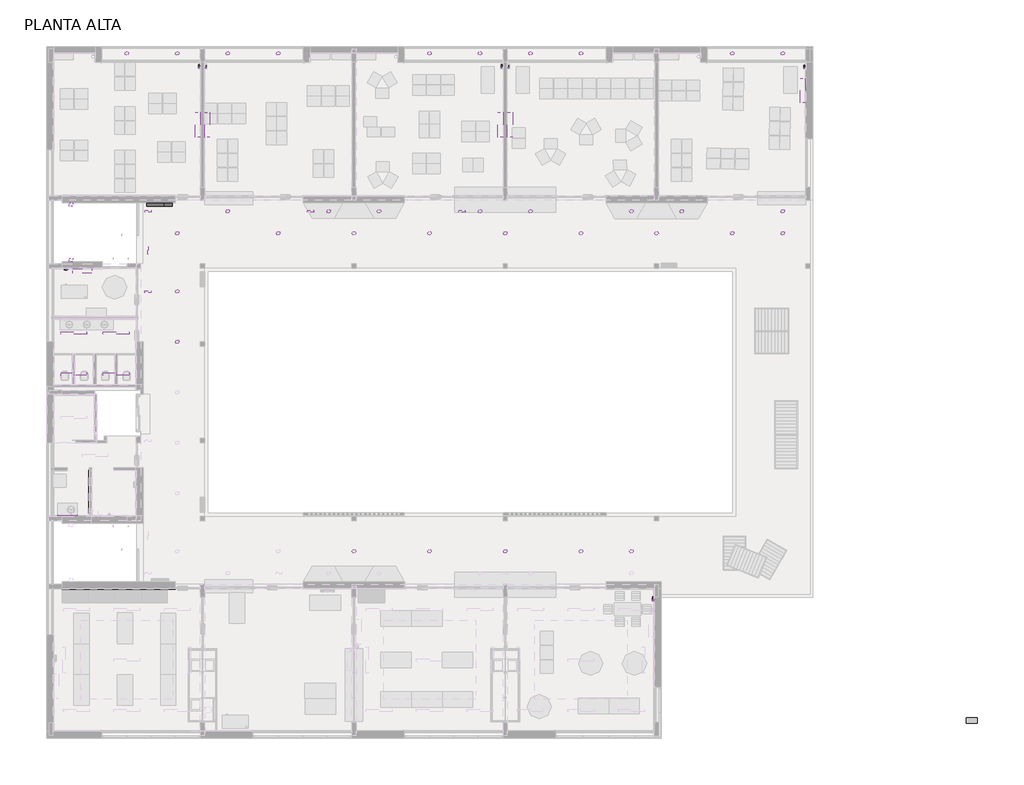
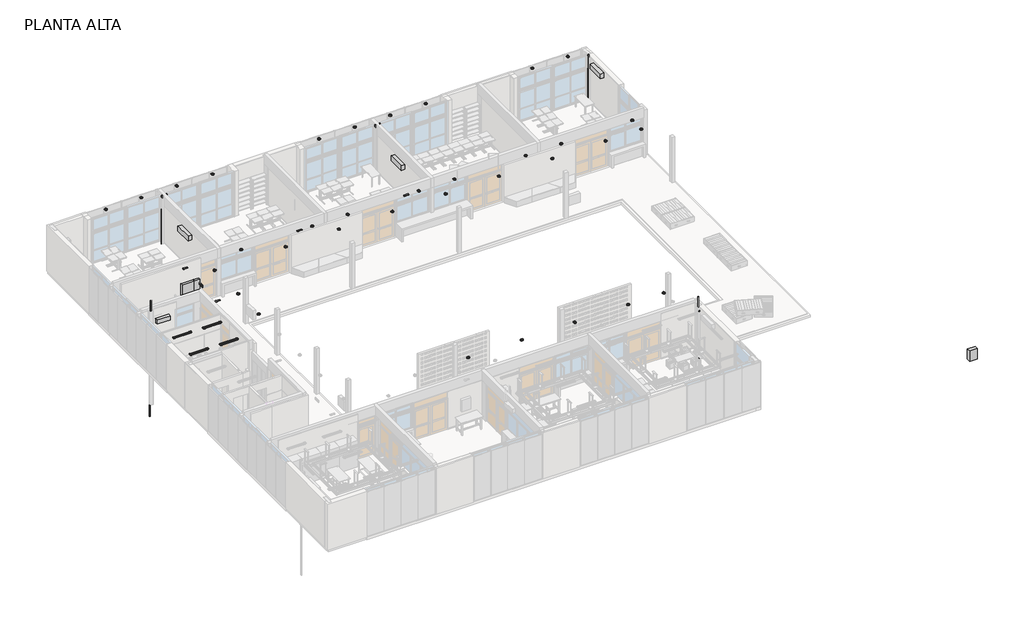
# One storey, part 13 of 14: 45 light fixtures, 20 pipe segments, 18 proxies, 2 pipe fittings.
"""IFC4 building model written with IfcOpenShell, lengths in millimetres."""

from ifc_helpers import new_model, si_unit, point, frame, frame_2d, origin, place, context, project, spatial, polyline, circle_curve, trimmed, segment, composite_curve, outline, extrude, transform, mapped, element, save
from components import aa_unidad_interior_12_18_24_v2_12000btu_578df6c9, aa_unidad_interior_12_18_24_v2_24000btu_6bd6a99b, pca2_35x80x15_251885e6, td_50x70x25_1e6689ec, tpa2_80x80x15_b5537dd2, l150_l150_8baf4198, l151_l151_e0f7dd01, l207_l207_1a914073, l207_l207_df287294, l251_l251_78c3c87a, l251_l251_36c0e2c3, l508_muro_l508_muro_c32f3ad5, m_codo_pvc_serie_40_57727813

model = new_model("IFC4")

# Units and contexts
model_context = context("Model", 3, world=origin())
ifc_project = project(units=[si_unit("LENGTHUNIT", "METRE", prefix="MILLI")], contexts=[model_context])

# Site, building, storey
site = spatial("IfcSite", under=ifc_project)
building = spatial("IfcBuilding", under=site)
storey = spatial("IfcBuildingStorey", under=building, Name="PLANTA ALTA", Elevation=3310.0)

# Proxies
placement = place(None, origin())
element("IfcBuildingElementProxy", 1, Name="23-BAR-ZÓCALO DE BALDOSA H 70mm", ObjectType="23-BAR-ZÓCALO DE BALDOSA H 70mm", at=placement, inside=storey, context=model_context, shape_type="SweptSolid", body=[
    extrude(outline(polyline([(3403.7173694, 535.2304035), (3403.7173694, 545.2304035), (10088.7173694, 545.2304035), (10088.7173694, 535.2304035), (3403.7173694, 535.2304035)])), frame((0.0, 0.0, 3310.0), z_axis=(0.0, 0.0, 1.0), x_axis=(1.0, 0.0, 0.0)), (0.0, 0.0, 1.0), 70.0),
    extrude(outline(polyline([(16988.7173694, 545.2304035), (16988.7173694, 535.2304035), (10720.0173694, 535.2304035), (10720.0173694, 545.2304035), (16988.7173694, 545.2304035)])), frame((0.0, 0.0, 3310.0), z_axis=(0.0, 0.0, 1.0), x_axis=(1.0, 0.0, 0.0)), (0.0, 0.0, 1.0), 70.0),
    extrude(outline(polyline([(23888.7173693, 545.2304035), (23888.7173693, 535.2304035), (17188.7173694, 535.2304035), (17188.7173694, 545.2304035), (23888.7173693, 545.2304035)])), frame((0.0, 0.0, 3310.0), z_axis=(0.0, 0.0, 1.0), x_axis=(1.0, 0.0, 0.0)), (0.0, 0.0, 1.0), 70.0),
    extrude(outline(polyline([(26288.7173693, 545.2304035), (26288.7173693, 535.2304035), (24088.7173694, 535.2304035), (24088.7173694, 545.2304035), (26288.7173693, 545.2304035)])), frame((0.0, 0.0, 3310.0), z_axis=(0.0, 0.0, 1.0), x_axis=(1.0, 0.0, 0.0)), (0.0, 0.0, 1.0), 70.0),
])
element("IfcBuildingElementProxy", 2, Name="23-BAR-ZÓCALO DE BALDOSA H 70mm", ObjectType="23-BAR-ZÓCALO DE BALDOSA H 70mm", at=placement, inside=storey, context=model_context, shape_type="SweptSolid", body=[
    extrude(outline(polyline([(9658.3173694, 4270.2304035), (9658.3173694, 4280.2304035), (10720.0173694, 4280.2304035), (10720.0173694, 4270.2304035), (9658.3173694, 4270.2304035)])), frame((0.0, 0.0, 3310.0), z_axis=(0.0, 0.0, 1.0), x_axis=(1.0, 0.0, 0.0)), (0.0, 0.0, 1.0), 70.0),
])
element("IfcBuildingElementProxy", 3, Name="23-BAR-ZÓCALO DE BALDOSA H 70mm", ObjectType="23-BAR-ZÓCALO DE BALDOSA H 70mm", at=placement, inside=storey, context=model_context, shape_type="SweptSolid", body=[
    extrude(outline(polyline([(9647.4173694, 960.2304035), (9647.4173694, 970.2304035), (10151.2173694, 970.2304035), (10151.2173694, 960.2304035), (9647.4173694, 960.2304035)])), frame((0.0, 0.0, 3310.0), z_axis=(0.0, 0.0, 1.0), x_axis=(1.0, 0.0, 0.0)), (0.0, 0.0, 1.0), 70.0),
])
element("IfcBuildingElementProxy", 4, Name="23-BAR-ZÓCALO DE BALDOSA H 70mm", ObjectType="23-BAR-ZÓCALO DE BALDOSA H 70mm", at=placement, inside=storey, context=model_context, shape_type="SweptSolid", body=[
    extrude(outline(polyline([(3788.7173693, 6995.2304035), (3788.7173693, 7005.2304035), (8938.7173694, 7005.2304035), (8938.7173694, 6995.2304035), (3788.7173693, 6995.2304035)])), frame((0.0, 0.0, 3310.0), z_axis=(0.0, 0.0, 1.0), x_axis=(1.0, 0.0, 0.0)), (0.0, 0.0, 1.0), 70.0),
])
element("IfcBuildingElementProxy", 5, Name="23-BAR-ZÓCALO DE BALDOSA H 70mm", ObjectType="23-BAR-ZÓCALO DE BALDOSA H 70mm", at=placement, inside=storey, context=model_context, shape_type="SweptSolid", body=[
    extrude(outline(polyline([(3403.7173693, 4870.2304035), (3413.7173693, 4870.2304035), (3413.7173693, 535.2304035), (3403.7173693, 535.2304035), (3403.7173693, 4870.2304035)])), frame((0.0, 0.0, 3310.0), z_axis=(0.0, 0.0, 1.0), x_axis=(1.0, 0.0, 0.0)), (0.0, 0.0, 1.0), 70.0),
])
element("IfcBuildingElementProxy", 6, Name="23-BAR-ZÓCALO DE BALDOSA H 70mm", ObjectType="23-BAR-ZÓCALO DE BALDOSA H 70mm", at=placement, inside=storey, context=model_context, shape_type="SweptSolid", body=[
    extrude(outline(polyline([(5018.7173694, 10335.2304035), (5008.7173694, 10345.2304035), (5008.7173694, 12410.2304035), (5018.7173694, 12410.2304035), (5018.7173694, 10335.2304035)])), frame((0.0, 0.0, 3310.0), z_axis=(0.0, 0.0, 1.0), x_axis=(1.0, 0.0, 0.0)), (0.0, 0.0, 1.0), 70.0),
    extrude(outline(polyline([(5008.7173694, 10345.2304035), (5018.7173694, 10335.2304035), (4437.7575549, 10335.2304035), (4437.7575549, 10345.2304035), (5008.7173694, 10345.2304035)])), frame((0.0, 0.0, 3310.0), z_axis=(0.0, 0.0, 1.0), x_axis=(1.0, 0.0, 0.0)), (0.0, 0.0, 1.0), 70.0),
    extrude(outline(polyline([(3388.7173694, 10335.2304035), (3388.7173694, 10345.2304035), (3641.7575549, 10345.2304035), (3641.7575549, 10335.2304035), (3388.7173694, 10335.2304035)])), frame((0.0, 0.0, 3310.0), z_axis=(0.0, 0.0, 1.0), x_axis=(1.0, 0.0, 0.0)), (0.0, 0.0, 1.0), 70.0),
])
element("IfcBuildingElementProxy", 7, Name="23-BAR-BUÑA PLANCHUELA 20x3.3", ObjectType="23-BAR-BUÑA PLANCHUELA 20x3.3", at=placement, inside=storey, context=model_context, shape_type="SweptSolid", body=[
    extrude(outline(polyline([(4489.7575549, 10355.3304035), (4489.7575549, 10335.3304035), (4486.4575549, 10335.3304035), (4486.4575549, 10355.3304035), (4489.7575549, 10355.3304035)])), frame((0.0, 0.0, 4210.0), z_axis=(0.0, 0.0, 1.0), x_axis=(1.0, 0.0, 0.0)), (0.0, 0.0, 1.0), 600.0),
])
element("IfcBuildingElementProxy", 8, Name="23-BAR-BUÑA PLANCHUELA 20x3.3", ObjectType="23-BAR-BUÑA PLANCHUELA 20x3.3", at=placement, inside=storey, context=model_context, shape_type="SweptSolid", body=[
    extrude(outline(polyline([(3593.0575549, 10355.3304035), (3593.0575549, 10335.3304035), (3589.7575549, 10335.3304035), (3589.7575549, 10355.3304035), (3593.0575549, 10355.3304035)])), frame((0.0, 0.0, 4210.0), z_axis=(0.0, 0.0, 1.0), x_axis=(1.0, 0.0, 0.0)), (0.0, 0.0, 1.0), 600.0),
])
element("IfcBuildingElementProxy", 9, Name="23-BAR-BUÑA PLANCHUELA 20x3.3", ObjectType="23-BAR-BUÑA PLANCHUELA 20x3.3", at=placement, inside=storey, context=model_context, shape_type="SweptSolid", body=[
    extrude(outline(polyline([(3589.7575549, 10345.2304035), (3589.7575549, 10365.2304035), (4489.7575549, 10365.2304035), (4489.7575549, 10345.2304035), (3589.7575549, 10345.2304035)])), frame((0.0, 0.0, 4810.0), z_axis=(0.0, 0.0, 1.0), x_axis=(1.0, 0.0, 0.0)), (0.0, 0.0, 1.0), 3.3),
])
aa_unidad_interior_12_18_24_v2_12000btu_shape = aa_unidad_interior_12_18_24_v2_12000btu_578df6c9(model_context)
element("IfcBuildingElementProxy", 10, Name="AA Unidad interior 12-18-24 V2 : 12000BTU", ObjectType="AA Unidad interior 12-18-24 V2 : 12000BTU", at=placement, inside=storey, context=model_context, shape_type="MappedRepresentation", body=[
    mapped(aa_unidad_interior_12_18_24_v2_12000btu_shape, transform((4703.7173693, 21605.2304035, 5610.0), x_axis=(1.0, 0.0, 0.0), y_axis=(0.0, 0.0, 1.0), z_axis=(0.0, -1.0, 0.0))),
])
aa_unidad_interior_12_18_24_v2_24000btu_shape = aa_unidad_interior_12_18_24_v2_24000btu_6bd6a99b(model_context)
element("IfcBuildingElementProxy", 11, Name="AA Unidad interior 12-18-24 V2 : 24000BTU", ObjectType="AA Unidad interior 12-18-24 V2 : 24000BTU", at=placement, inside=storey, context=model_context, shape_type="MappedRepresentation", body=[
    mapped(aa_unidad_interior_12_18_24_v2_24000btu_shape, transform((10088.7173694, 28170.2304035, 5610.0), x_axis=(0.0, 1.0, 0.0), y_axis=(0.0, 0.0, -1.0), z_axis=(-1.0, 0.0, 0.0))),
])
element("IfcBuildingElementProxy", 12, Name="AA Unidad interior 12-18-24 V2 : 24000BTU", ObjectType="AA Unidad interior 12-18-24 V2 : 24000BTU", at=placement, inside=storey, context=model_context, shape_type="MappedRepresentation", body=[
    mapped(aa_unidad_interior_12_18_24_v2_24000btu_shape, transform((10288.7173694, 28170.2304035, 5610.0), x_axis=(0.0, 1.0, 0.0), y_axis=(0.0, 0.0, 1.0), z_axis=(1.0, 0.0, 0.0))),
])
element("IfcBuildingElementProxy", 13, Name="AA Unidad interior 12-18-24 V2 : 24000BTU", ObjectType="AA Unidad interior 12-18-24 V2 : 24000BTU", at=placement, inside=storey, context=model_context, shape_type="MappedRepresentation", body=[
    mapped(aa_unidad_interior_12_18_24_v2_24000btu_shape, transform((24088.7173694, 28170.2304035, 5610.0), x_axis=(0.0, 1.0, 0.0), y_axis=(0.0, 0.0, 1.0), z_axis=(1.0, 0.0, 0.0))),
])
element("IfcBuildingElementProxy", 14, Name="AA Unidad interior 12-18-24 V2 : 24000BTU", ObjectType="AA Unidad interior 12-18-24 V2 : 24000BTU", at=placement, inside=storey, context=model_context, shape_type="MappedRepresentation", body=[
    mapped(aa_unidad_interior_12_18_24_v2_24000btu_shape, transform((23888.7173694, 28170.2304035, 5610.0), x_axis=(0.0, 1.0, 0.0), y_axis=(0.0, 0.0, -1.0), z_axis=(-1.0, 0.0, 0.0))),
])
element("IfcBuildingElementProxy", 15, Name="AA Unidad interior 12-18-24 V2 : 24000BTU", ObjectType="AA Unidad interior 12-18-24 V2 : 24000BTU", at=placement, inside=storey, context=model_context, shape_type="MappedRepresentation", body=[
    mapped(aa_unidad_interior_12_18_24_v2_24000btu_shape, transform((37673.7173693, 29730.2304035, 6110.0), x_axis=(0.0, -1.0, 0.0), y_axis=(0.0, 0.0, 1.0), z_axis=(-1.0, 0.0, 0.0))),
])
pca2_35x80x15_shape = pca2_35x80x15_251885e6(model_context)
element("IfcBuildingElementProxy", 16, Name="TABLERO ELECTRICO DE SUPERFICIE : PCA2 35x80x15", ObjectType="TABLERO ELECTRICO DE SUPERFICIE : PCA2 35x80x15", at=placement, inside=storey, context=model_context, shape_type="MappedRepresentation", body=[
    mapped(pca2_35x80x15_shape, transform((8626.7173694, 24610.2304035, 5110.0), x_axis=(-1.0, 0.0, 0.0), y_axis=(0.0, 0.0, -1.0), z_axis=(0.0, -1.0, 0.0))),
])
td_50x70x25_shape = td_50x70x25_1e6689ec(model_context)
element("IfcBuildingElementProxy", 17, Name="TABLERO ELECTRICO DE SUPERFICIE : TD 50x70x25", ObjectType="TABLERO ELECTRICO DE SUPERFICIE : TD 50x70x25", at=placement, inside=storey, context=model_context, shape_type="MappedRepresentation", body=[
    mapped(td_50x70x25_shape, transform((45263.7173693, 889.3970702, 1800.0), x_axis=(-1.0, 0.0, 0.0), y_axis=(0.0, 0.0, 1.0), z_axis=(0.0, 1.0, 0.0))),
])
tpa2_80x80x15_shape = tpa2_80x80x15_b5537dd2(model_context)
element("IfcBuildingElementProxy", 18, Name="TABLERO ELECTRICO DE SUPERFICIE : TPA2 80x80x15", ObjectType="TABLERO ELECTRICO DE SUPERFICIE : TPA2 80x80x15", at=placement, inside=storey, context=model_context, shape_type="MappedRepresentation", body=[
    mapped(tpa2_80x80x15_shape, transform((8051.7173694, 24610.2304035, 5110.0), x_axis=(-1.0, 0.0, 0.0), y_axis=(0.0, 0.0, -1.0), z_axis=(0.0, -1.0, 0.0))),
])

# Light fixtures
l150_l150_shape = l150_l150_8baf4198(model_context)
element("IfcLightFixture", 19, ObjectType="L150 : L150", at=placement, inside=storey, context=model_context, shape_type="MappedRepresentation", body=[
    mapped(l150_l150_shape, transform((7708.7173693, 22437.7304035, 6410.0), x_axis=(0.0, -1.0, 0.0), y_axis=(-1.0, 0.0, 0.0), z_axis=(0.0, 0.0, -1.0))),
])
l151_l151_shape = l151_l151_e0f7dd01(model_context)
element("IfcLightFixture", 20, ObjectType="L151 : L151", at=placement, inside=storey, context=model_context, shape_type="MappedRepresentation", body=[
    mapped(l151_l151_shape, transform((7708.7173693, 20555.2304035, 6410.0), x_axis=(0.0, -1.0, 0.0), y_axis=(-1.0, 0.0, 0.0), z_axis=(0.0, 0.0, -1.0))),
])
element("IfcLightFixture", 21, ObjectType="L151 : L151", at=placement, inside=storey, context=model_context, shape_type="MappedRepresentation", body=[
    mapped(l151_l151_shape, transform((7708.7173693, 24220.2304035, 6410.0), x_axis=(0.0, -1.0, 0.0), y_axis=(-1.0, 0.0, 0.0), z_axis=(0.0, 0.0, -1.0))),
])
element("IfcLightFixture", 22, ObjectType="L151 : L151", at=placement, inside=storey, context=model_context, shape_type="MappedRepresentation", body=[
    mapped(l151_l151_shape, transform((15108.7173693, 24220.2304035, 6410.0), x_axis=(0.0, -1.0, 0.0), y_axis=(-1.0, 0.0, 0.0), z_axis=(0.0, 0.0, -1.0))),
])
element("IfcLightFixture", 23, ObjectType="L151 : L151", at=placement, inside=storey, context=model_context, shape_type="MappedRepresentation", body=[
    mapped(l151_l151_shape, transform((22008.7173693, 24220.2304035, 6410.0), x_axis=(0.0, -1.0, 0.0), y_axis=(-1.0, 0.0, 0.0), z_axis=(0.0, 0.0, -1.0))),
])
l207_l207_shape = l207_l207_1a914073(model_context)
element("IfcLightFixture", 24, ObjectType="L207 : L207", at=placement, inside=storey, context=model_context, shape_type="MappedRepresentation", body=[
    mapped(l207_l207_shape, transform((17088.7173694, 8720.2304035, 3410.0), x_axis=(1.0, 0.0, 0.0), y_axis=(0.0, 1.0, 0.0), z_axis=(0.0, 0.0, 1.0))),
])
element("IfcLightFixture", 25, ObjectType="L207 : L207", at=placement, inside=storey, context=model_context, shape_type="MappedRepresentation", body=[
    mapped(l207_l207_shape, transform((20538.7173694, 8720.2304035, 3410.0), x_axis=(1.0, 0.0, 0.0), y_axis=(0.0, 1.0, 0.0), z_axis=(0.0, 0.0, 1.0))),
])
element("IfcLightFixture", 26, ObjectType="L207 : L207", at=placement, inside=storey, context=model_context, shape_type="MappedRepresentation", body=[
    mapped(l207_l207_shape, transform((23988.7173694, 8720.2304035, 3410.0), x_axis=(1.0, 0.0, 0.0), y_axis=(0.0, 1.0, 0.0), z_axis=(0.0, 0.0, 1.0))),
])
element("IfcLightFixture", 27, ObjectType="L207 : L207", at=placement, inside=storey, context=model_context, shape_type="MappedRepresentation", body=[
    mapped(l207_l207_shape, transform((27438.7173693, 8720.2304035, 3410.0), x_axis=(1.0, 0.0, 0.0), y_axis=(0.0, 1.0, 0.0), z_axis=(0.0, 0.0, 1.0))),
])
element("IfcLightFixture", 28, ObjectType="L207 : L207", at=placement, inside=storey, context=model_context, shape_type="MappedRepresentation", body=[
    mapped(l207_l207_shape, transform((29738.7173693, 8720.2304035, 3410.0), x_axis=(1.0, 0.0, 0.0), y_axis=(0.0, 1.0, 0.0), z_axis=(0.0, 0.0, 1.0))),
])
element("IfcLightFixture", 29, ObjectType="L207 : L207", at=placement, inside=storey, context=model_context, shape_type="MappedRepresentation", body=[
    mapped(l207_l207_shape, transform((9038.7173693, 18270.2304035, 3410.0), x_axis=(1.0, 0.0, 0.0), y_axis=(0.0, 1.0, 0.0), z_axis=(0.0, 0.0, 1.0))),
])
element("IfcLightFixture", 30, ObjectType="L207 : L207", at=placement, inside=storey, context=model_context, shape_type="MappedRepresentation", body=[
    mapped(l207_l207_shape, transform((9038.7173693, 20570.2304035, 3410.0), x_axis=(1.0, 0.0, 0.0), y_axis=(0.0, 1.0, 0.0), z_axis=(0.0, 0.0, 1.0))),
])
element("IfcLightFixture", 31, ObjectType="L207 : L207", at=placement, inside=storey, context=model_context, shape_type="MappedRepresentation", body=[
    mapped(l207_l207_shape, transform((9038.7173693, 23220.2304035, 3410.0), x_axis=(1.0, 0.0, 0.0), y_axis=(0.0, 1.0, 0.0), z_axis=(0.0, 0.0, 1.0))),
])
element("IfcLightFixture", 32, ObjectType="L207 : L207", at=placement, inside=storey, context=model_context, shape_type="MappedRepresentation", body=[
    mapped(l207_l207_shape, transform((13638.7173693, 23220.2304035, 3410.0), x_axis=(1.0, 0.0, 0.0), y_axis=(0.0, 1.0, 0.0), z_axis=(0.0, 0.0, 1.0))),
])
element("IfcLightFixture", 33, ObjectType="L207 : L207", at=placement, inside=storey, context=model_context, shape_type="MappedRepresentation", body=[
    mapped(l207_l207_shape, transform((17088.7173694, 23220.2304035, 3410.0), x_axis=(1.0, 0.0, 0.0), y_axis=(0.0, 1.0, 0.0), z_axis=(0.0, 0.0, 1.0))),
])
element("IfcLightFixture", 34, ObjectType="L207 : L207", at=placement, inside=storey, context=model_context, shape_type="MappedRepresentation", body=[
    mapped(l207_l207_shape, transform((20538.7173694, 23220.2304035, 3410.0), x_axis=(1.0, 0.0, 0.0), y_axis=(0.0, 1.0, 0.0), z_axis=(0.0, 0.0, 1.0))),
])
element("IfcLightFixture", 35, ObjectType="L207 : L207", at=placement, inside=storey, context=model_context, shape_type="MappedRepresentation", body=[
    mapped(l207_l207_shape, transform((23988.7173694, 23220.2304035, 3410.0), x_axis=(1.0, 0.0, 0.0), y_axis=(0.0, 1.0, 0.0), z_axis=(0.0, 0.0, 1.0))),
])
element("IfcLightFixture", 36, ObjectType="L207 : L207", at=placement, inside=storey, context=model_context, shape_type="MappedRepresentation", body=[
    mapped(l207_l207_shape, transform((27438.7173693, 23220.2304035, 3410.0), x_axis=(1.0, 0.0, 0.0), y_axis=(0.0, 1.0, 0.0), z_axis=(0.0, 0.0, 1.0))),
])
element("IfcLightFixture", 37, ObjectType="L207 : L207", at=placement, inside=storey, context=model_context, shape_type="MappedRepresentation", body=[
    mapped(l207_l207_shape, transform((30888.7173693, 23220.2304035, 3410.0), x_axis=(1.0, 0.0, 0.0), y_axis=(0.0, 1.0, 0.0), z_axis=(0.0, 0.0, 1.0))),
])
element("IfcLightFixture", 38, ObjectType="L207 : L207", at=placement, inside=storey, context=model_context, shape_type="MappedRepresentation", body=[
    mapped(l207_l207_shape, transform((34338.7173693, 23220.2304035, 3410.0), x_axis=(1.0, 0.0, 0.0), y_axis=(0.0, 1.0, 0.0), z_axis=(0.0, 0.0, 1.0))),
])
element("IfcLightFixture", 39, ObjectType="L207 : L207", at=placement, inside=storey, context=model_context, shape_type="MappedRepresentation", body=[
    mapped(l207_l207_shape, transform((36638.7173693, 23220.2304035, 3410.0), x_axis=(1.0, 0.0, 0.0), y_axis=(0.0, 1.0, 0.0), z_axis=(0.0, 0.0, 1.0))),
])
element("IfcLightFixture", 40, ObjectType="L207 : L207", at=placement, inside=storey, context=model_context, shape_type="MappedRepresentation", body=[
    mapped(l207_l207_shape, transform((36638.7173693, 24220.2304035, 3410.0), x_axis=(1.0, 0.0, 0.0), y_axis=(0.0, 1.0, 0.0), z_axis=(0.0, 0.0, 1.0))),
])
element("IfcLightFixture", 41, ObjectType="L207 : L207", at=placement, inside=storey, context=model_context, shape_type="MappedRepresentation", body=[
    mapped(l207_l207_shape, transform((32038.7173693, 24220.2304035, 3410.0), x_axis=(1.0, 0.0, 0.0), y_axis=(0.0, 1.0, 0.0), z_axis=(0.0, 0.0, 1.0))),
])
element("IfcLightFixture", 42, ObjectType="L207 : L207", at=placement, inside=storey, context=model_context, shape_type="MappedRepresentation", body=[
    mapped(l207_l207_shape, transform((29738.7173693, 24220.2304035, 3410.0), x_axis=(1.0, 0.0, 0.0), y_axis=(0.0, 1.0, 0.0), z_axis=(0.0, 0.0, 1.0))),
])
element("IfcLightFixture", 43, ObjectType="L207 : L207", at=placement, inside=storey, context=model_context, shape_type="MappedRepresentation", body=[
    mapped(l207_l207_shape, transform((25138.7173693, 24220.2304035, 3410.0), x_axis=(1.0, 0.0, 0.0), y_axis=(0.0, 1.0, 0.0), z_axis=(0.0, 0.0, 1.0))),
])
element("IfcLightFixture", 44, ObjectType="L207 : L207", at=placement, inside=storey, context=model_context, shape_type="MappedRepresentation", body=[
    mapped(l207_l207_shape, transform((22838.7173694, 24220.2304035, 3410.0), x_axis=(1.0, 0.0, 0.0), y_axis=(0.0, 1.0, 0.0), z_axis=(0.0, 0.0, 1.0))),
])
element("IfcLightFixture", 45, ObjectType="L207 : L207", at=placement, inside=storey, context=model_context, shape_type="MappedRepresentation", body=[
    mapped(l207_l207_shape, transform((18238.7173694, 24220.2304035, 3410.0), x_axis=(1.0, 0.0, 0.0), y_axis=(0.0, 1.0, 0.0), z_axis=(0.0, 0.0, 1.0))),
])
element("IfcLightFixture", 46, ObjectType="L207 : L207", at=placement, inside=storey, context=model_context, shape_type="MappedRepresentation", body=[
    mapped(l207_l207_shape, transform((15938.7173693, 24220.2304035, 3410.0), x_axis=(1.0, 0.0, 0.0), y_axis=(0.0, 1.0, 0.0), z_axis=(0.0, 0.0, 1.0))),
])
element("IfcLightFixture", 47, ObjectType="L207 : L207", at=placement, inside=storey, context=model_context, shape_type="MappedRepresentation", body=[
    mapped(l207_l207_shape, transform((11338.7173693, 24220.2304035, 3410.0), x_axis=(1.0, 0.0, 0.0), y_axis=(0.0, 1.0, 0.0), z_axis=(0.0, 0.0, 1.0))),
])
element("IfcLightFixture", 48, ObjectType="L207 : L207", at=placement, inside=storey, context=model_context, shape_type="MappedRepresentation", body=[
    mapped(l207_l207_shape, transform((36638.7173693, 31419.2304035, 3410.0), x_axis=(1.0, 0.0, 0.0), y_axis=(0.0, 1.0, 0.0), z_axis=(0.0, 0.0, 1.0))),
])
element("IfcLightFixture", 49, ObjectType="L207 : L207", at=placement, inside=storey, context=model_context, shape_type="MappedRepresentation", body=[
    mapped(l207_l207_shape, transform((34338.7173693, 31419.2304035, 3410.0), x_axis=(1.0, 0.0, 0.0), y_axis=(0.0, 1.0, 0.0), z_axis=(0.0, 0.0, 1.0))),
])
element("IfcLightFixture", 50, ObjectType="L207 : L207", at=placement, inside=storey, context=model_context, shape_type="MappedRepresentation", body=[
    mapped(l207_l207_shape, transform((27438.7173693, 31419.2304035, 3410.0), x_axis=(1.0, 0.0, 0.0), y_axis=(0.0, 1.0, 0.0), z_axis=(0.0, 0.0, 1.0))),
])
element("IfcLightFixture", 51, ObjectType="L207 : L207", at=placement, inside=storey, context=model_context, shape_type="MappedRepresentation", body=[
    mapped(l207_l207_shape, transform((25138.7173693, 31419.2304035, 3410.0), x_axis=(1.0, 0.0, 0.0), y_axis=(0.0, 1.0, 0.0), z_axis=(0.0, 0.0, 1.0))),
])
element("IfcLightFixture", 52, ObjectType="L207 : L207", at=placement, inside=storey, context=model_context, shape_type="MappedRepresentation", body=[
    mapped(l207_l207_shape, transform((13638.7173694, 31419.2304035, 3410.0), x_axis=(1.0, 0.0, 0.0), y_axis=(0.0, 1.0, 0.0), z_axis=(0.0, 0.0, 1.0))),
])
element("IfcLightFixture", 53, ObjectType="L207 : L207", at=placement, inside=storey, context=model_context, shape_type="MappedRepresentation", body=[
    mapped(l207_l207_shape, transform((11338.7173694, 31419.2304035, 3410.0), x_axis=(1.0, 0.0, 0.0), y_axis=(0.0, 1.0, 0.0), z_axis=(0.0, 0.0, 1.0))),
])
l207_l207_2_shape = l207_l207_df287294(model_context)
element("IfcLightFixture", 54, ObjectType="L207 : L207", at=placement, inside=storey, context=model_context, shape_type="MappedRepresentation", body=[
    mapped(l207_l207_2_shape, transform((20538.7173694, 31419.2304035, 3410.0), x_axis=(-1.0, 0.0, 0.0), y_axis=(0.0, -1.0, 0.0), z_axis=(0.0, 0.0, 1.0))),
])
element("IfcLightFixture", 55, ObjectType="L207 : L207", at=placement, inside=storey, context=model_context, shape_type="MappedRepresentation", body=[
    mapped(l207_l207_2_shape, transform((22838.7173694, 31419.2304035, 3410.0), x_axis=(-1.0, 0.0, 0.0), y_axis=(0.0, -1.0, 0.0), z_axis=(0.0, 0.0, 1.0))),
])
element("IfcLightFixture", 56, ObjectType="L207 : L207", at=placement, inside=storey, context=model_context, shape_type="MappedRepresentation", body=[
    mapped(l207_l207_2_shape, transform((6738.7173694, 31419.2304035, 3410.0), x_axis=(-1.0, 0.0, 0.0), y_axis=(0.0, -1.0, 0.0), z_axis=(0.0, 0.0, 1.0))),
])
element("IfcLightFixture", 57, ObjectType="L207 : L207", at=placement, inside=storey, context=model_context, shape_type="MappedRepresentation", body=[
    mapped(l207_l207_2_shape, transform((9038.7173694, 31419.2304035, 3410.0), x_axis=(-1.0, 0.0, 0.0), y_axis=(0.0, -1.0, 0.0), z_axis=(0.0, 0.0, 1.0))),
])
l251_l251_shape = l251_l251_78c3c87a(model_context)
element("IfcLightFixture", 58, ObjectType="L251 : L251", at=placement, inside=storey, context=model_context, shape_type="MappedRepresentation", body=[
    mapped(l251_l251_shape, transform((4316.2173694, 18670.2304035, 5010.0), x_axis=(1.0, 0.0, 0.0), y_axis=(0.0, 1.0, 0.0), z_axis=(0.0, 0.0, 1.0))),
])
element("IfcLightFixture", 59, ObjectType="L251 : L251", at=placement, inside=storey, context=model_context, shape_type="MappedRepresentation", body=[
    mapped(l251_l251_shape, transform((4316.2173694, 16797.7304035, 5010.0), x_axis=(1.0, 0.0, 0.0), y_axis=(0.0, 1.0, 0.0), z_axis=(0.0, 0.0, 1.0))),
])
l251_l251_2_shape = l251_l251_36c0e2c3(model_context)
element("IfcLightFixture", 60, ObjectType="L251 : L251", at=placement, inside=storey, context=model_context, shape_type="MappedRepresentation", body=[
    mapped(l251_l251_2_shape, transform((6251.2173694, 18670.2304035, 5010.0), x_axis=(-1.0, 0.0, 0.0), y_axis=(0.0, -1.0, 0.0), z_axis=(0.0, 0.0, 1.0))),
])
element("IfcLightFixture", 61, ObjectType="L251 : L251", at=placement, inside=storey, context=model_context, shape_type="MappedRepresentation", body=[
    mapped(l251_l251_2_shape, transform((6251.2173694, 16797.7304035, 5010.0), x_axis=(-1.0, 0.0, 0.0), y_axis=(0.0, -1.0, 0.0), z_axis=(0.0, 0.0, 1.0))),
])
l508_muro_l508_muro_shape = l508_muro_l508_muro_c32f3ad5(model_context)
element("IfcLightFixture", 62, ObjectType="L508 Muro : L508 Muro", at=placement, inside=storey, context=model_context, shape_type="MappedRepresentation", body=[
    mapped(l508_muro_l508_muro_shape, transform((4063.7173693, 21767.7304035, 2880.0), x_axis=(1.0, 0.0, 0.0), y_axis=(0.0, 1.0, 0.0), z_axis=(0.0, 0.0, 1.0))),
])
element("IfcLightFixture", 63, ObjectType="L508 Muro : L508 Muro", at=placement, inside=storey, context=model_context, shape_type="MappedRepresentation", body=[
    mapped(l508_muro_l508_muro_shape, transform((4313.7173693, 24772.7304035, 2880.0), x_axis=(-1.0, 0.0, 0.0), y_axis=(0.0, -1.0, 0.0), z_axis=(0.0, 0.0, 1.0))),
])

# Pipe fittings
m_codo_pvc_serie_40_shape = m_codo_pvc_serie_40_57727813(model_context)
element("IfcPipeFitting", 64, ObjectType="M_Codo - PVC - Serie 40 : Estándar", at=placement, inside=storey, context=model_context, shape_type="MappedRepresentation", body=[
    mapped(m_codo_pvc_serie_40_shape, transform((30731.2173693, 6506.2260239, 6164.231432), x_axis=(0.0, 1.0, 0.0), y_axis=(0.0, 0.0, 1.0), z_axis=(1.0, 0.0, 0.0))),
])
element("IfcPipeFitting", 65, ObjectType="M_Codo - PVC - Serie 40 : Estándar", at=placement, inside=storey, context=model_context, shape_type="MappedRepresentation", body=[
    mapped(m_codo_pvc_serie_40_shape, transform((30731.2173693, 6573.7260239, 2869.0975664), x_axis=(0.0, 1.0, 0.0), y_axis=(0.0, 0.0, 1.0), z_axis=(1.0, 0.0, 0.0))),
])

# Pipe segments
element("IfcPipeSegment", 66, ObjectType="Conductos Electricos", at=placement, inside=storey, context=model_context, shape_type="SweptSolid", body=[
    extrude(outline(composite_curve([segment(trimmed(circle_curve(frame_2d((10031.6565853, 30839.1557622)), 30.1625), [point((10061.8190853, 30839.1557622))], [point((10031.6565853, 30808.9932622))], False, "CARTESIAN"), True, "CONTINUOUS"), segment(trimmed(circle_curve(frame_2d((10031.6565853, 30839.1557622)), 30.1625), [point((10031.6565853, 30808.9932622))], [point((10001.4940853, 30839.1557622))], False, "CARTESIAN"), True, "CONTINUOUS"), segment(trimmed(circle_curve(frame_2d((10031.6565853, 30839.1557622)), 30.1625), [point((10001.4940853, 30839.1557622))], [point((10031.6565853, 30869.3182622))], False, "CARTESIAN"), True, "CONTINUOUS"), segment(trimmed(circle_curve(frame_2d((10031.6565853, 30839.1557622)), 30.1625), [point((10031.6565853, 30869.3182622))], [point((10061.8190853, 30839.1557622))], False, "CARTESIAN"), True, "CONTINUOUS")], self_intersect=False)), frame((0.0, 0.0, 2345.0), z_axis=(0.0, 0.0, 1.0), x_axis=(1.0, 0.0, 0.0)), (0.0, 0.0, 1.0), 4200.0),
])
element("IfcPipeSegment", 67, ObjectType="Conductos Electricos", at=placement, inside=storey, context=model_context, shape_type="SweptSolid", body=[
    extrude(outline(composite_curve([segment(trimmed(circle_curve(frame_2d((10031.6565853, 30895.4057622)), 16.7005), [point((10048.3570853, 30895.4057622))], [point((10031.6565853, 30878.7052622))], False, "CARTESIAN"), True, "CONTINUOUS"), segment(trimmed(circle_curve(frame_2d((10031.6565853, 30895.4057622)), 16.7005), [point((10031.6565853, 30878.7052622))], [point((10014.9560853, 30895.4057622))], False, "CARTESIAN"), True, "CONTINUOUS"), segment(trimmed(circle_curve(frame_2d((10031.6565853, 30895.4057622)), 16.7005), [point((10014.9560853, 30895.4057622))], [point((10031.6565853, 30912.1062622))], False, "CARTESIAN"), True, "CONTINUOUS"), segment(trimmed(circle_curve(frame_2d((10031.6565853, 30895.4057622)), 16.7005), [point((10031.6565853, 30912.1062622))], [point((10048.3570853, 30895.4057622))], False, "CARTESIAN"), True, "CONTINUOUS")], self_intersect=False)), frame((0.0, 0.0, -230.0), z_axis=(0.0, 0.0, 1.0), x_axis=(1.0, 0.0, 0.0)), (0.0, 0.0, 1.0), 5800.0),
])
element("IfcPipeSegment", 68, ObjectType="Conductos Electricos", at=placement, inside=storey, context=model_context, shape_type="SweptSolid", body=[
    extrude(outline(composite_curve([segment(trimmed(circle_curve(frame_2d((10031.6565853, 30764.4231772)), 30.1625), [point((10061.8190853, 30764.4231772))], [point((10031.6565853, 30734.2606772))], False, "CARTESIAN"), True, "CONTINUOUS"), segment(trimmed(circle_curve(frame_2d((10031.6565853, 30764.4231772)), 30.1625), [point((10031.6565853, 30734.2606772))], [point((10001.4940853, 30764.4231772))], False, "CARTESIAN"), True, "CONTINUOUS"), segment(trimmed(circle_curve(frame_2d((10031.6565853, 30764.4231772)), 30.1625), [point((10001.4940853, 30764.4231772))], [point((10031.6565853, 30794.5856772))], False, "CARTESIAN"), True, "CONTINUOUS"), segment(trimmed(circle_curve(frame_2d((10031.6565853, 30764.4231772)), 30.1625), [point((10031.6565853, 30794.5856772))], [point((10061.8190853, 30764.4231772))], False, "CARTESIAN"), True, "CONTINUOUS")], self_intersect=False)), frame((0.0, 0.0, 5710.0), z_axis=(0.0, 0.0, 1.0), x_axis=(1.0, 0.0, 0.0)), (0.0, 0.0, 1.0), 835.0),
])
element("IfcPipeSegment", 69, ObjectType="Conductos Electricos", at=placement, inside=storey, context=model_context, shape_type="SweptSolid", body=[
    extrude(outline(composite_curve([segment(trimmed(circle_curve(frame_2d((10331.6565853, 30834.1557622)), 24.13), [point((10355.7865853, 30834.1557622))], [point((10331.6565853, 30810.0257622))], False, "CARTESIAN"), True, "CONTINUOUS"), segment(trimmed(circle_curve(frame_2d((10331.6565853, 30834.1557622)), 24.13), [point((10331.6565853, 30810.0257622))], [point((10307.5265853, 30834.1557622))], False, "CARTESIAN"), True, "CONTINUOUS"), segment(trimmed(circle_curve(frame_2d((10331.6565853, 30834.1557622)), 24.13), [point((10307.5265853, 30834.1557622))], [point((10331.6565853, 30858.2857622))], False, "CARTESIAN"), True, "CONTINUOUS"), segment(trimmed(circle_curve(frame_2d((10331.6565853, 30834.1557622)), 24.13), [point((10331.6565853, 30858.2857622))], [point((10355.7865853, 30834.1557622))], False, "CARTESIAN"), True, "CONTINUOUS")], self_intersect=False)), frame((0.0, 0.0, 2245.0), z_axis=(0.0, 0.0, 1.0), x_axis=(1.0, 0.0, 0.0)), (0.0, 0.0, 1.0), 4300.0),
])
element("IfcPipeSegment", 70, ObjectType="Conductos Electricos", at=placement, inside=storey, context=model_context, shape_type="SweptSolid", body=[
    extrude(outline(composite_curve([segment(trimmed(circle_curve(frame_2d((10331.6565853, 30764.4231772)), 24.13), [point((10355.7865853, 30764.4231772))], [point((10331.6565853, 30740.2931772))], False, "CARTESIAN"), True, "CONTINUOUS"), segment(trimmed(circle_curve(frame_2d((10331.6565853, 30764.4231772)), 24.13), [point((10331.6565853, 30740.2931772))], [point((10307.5265853, 30764.4231772))], False, "CARTESIAN"), True, "CONTINUOUS"), segment(trimmed(circle_curve(frame_2d((10331.6565853, 30764.4231772)), 24.13), [point((10307.5265853, 30764.4231772))], [point((10331.6565853, 30788.5531772))], False, "CARTESIAN"), True, "CONTINUOUS"), segment(trimmed(circle_curve(frame_2d((10331.6565853, 30764.4231772)), 24.13), [point((10331.6565853, 30788.5531772))], [point((10355.7865853, 30764.4231772))], False, "CARTESIAN"), True, "CONTINUOUS")], self_intersect=False)), frame((0.0, 0.0, 5710.0), z_axis=(0.0, 0.0, 1.0), x_axis=(1.0, 0.0, 0.0)), (0.0, 0.0, 1.0), 835.0),
])
element("IfcPipeSegment", 71, ObjectType="Conductos Electricos", at=placement, inside=storey, context=model_context, shape_type="SweptSolid", body=[
    extrude(outline(composite_curve([segment(trimmed(circle_curve(frame_2d((23831.6565853, 30839.1557622)), 30.1625), [point((23861.8190853, 30839.1557622))], [point((23831.6565853, 30808.9932622))], False, "CARTESIAN"), True, "CONTINUOUS"), segment(trimmed(circle_curve(frame_2d((23831.6565853, 30839.1557622)), 30.1625), [point((23831.6565853, 30808.9932622))], [point((23801.4940853, 30839.1557622))], False, "CARTESIAN"), True, "CONTINUOUS"), segment(trimmed(circle_curve(frame_2d((23831.6565853, 30839.1557622)), 30.1625), [point((23801.4940853, 30839.1557622))], [point((23831.6565853, 30869.3182622))], False, "CARTESIAN"), True, "CONTINUOUS"), segment(trimmed(circle_curve(frame_2d((23831.6565853, 30839.1557622)), 30.1625), [point((23831.6565853, 30869.3182622))], [point((23861.8190853, 30839.1557622))], False, "CARTESIAN"), True, "CONTINUOUS")], self_intersect=False)), frame((0.0, 0.0, 2345.0), z_axis=(0.0, 0.0, 1.0), x_axis=(1.0, 0.0, 0.0)), (0.0, 0.0, 1.0), 4200.0),
])
element("IfcPipeSegment", 72, ObjectType="Conductos Electricos", at=placement, inside=storey, context=model_context, shape_type="SweptSolid", body=[
    extrude(outline(composite_curve([segment(trimmed(circle_curve(frame_2d((23831.6565853, 30895.4057622)), 16.7005), [point((23848.3570853, 30895.4057622))], [point((23831.6565853, 30878.7052622))], False, "CARTESIAN"), True, "CONTINUOUS"), segment(trimmed(circle_curve(frame_2d((23831.6565853, 30895.4057622)), 16.7005), [point((23831.6565853, 30878.7052622))], [point((23814.9560853, 30895.4057622))], False, "CARTESIAN"), True, "CONTINUOUS"), segment(trimmed(circle_curve(frame_2d((23831.6565853, 30895.4057622)), 16.7005), [point((23814.9560853, 30895.4057622))], [point((23831.6565853, 30912.1062622))], False, "CARTESIAN"), True, "CONTINUOUS"), segment(trimmed(circle_curve(frame_2d((23831.6565853, 30895.4057622)), 16.7005), [point((23831.6565853, 30912.1062622))], [point((23848.3570853, 30895.4057622))], False, "CARTESIAN"), True, "CONTINUOUS")], self_intersect=False)), frame((0.0, 0.0, -230.0), z_axis=(0.0, 0.0, 1.0), x_axis=(1.0, 0.0, 0.0)), (0.0, 0.0, 1.0), 5800.0),
])
element("IfcPipeSegment", 73, ObjectType="Conductos Electricos", at=placement, inside=storey, context=model_context, shape_type="SweptSolid", body=[
    extrude(outline(composite_curve([segment(trimmed(circle_curve(frame_2d((23831.6565853, 30764.4231772)), 30.1625), [point((23861.8190853, 30764.4231772))], [point((23831.6565853, 30734.2606772))], False, "CARTESIAN"), True, "CONTINUOUS"), segment(trimmed(circle_curve(frame_2d((23831.6565853, 30764.4231772)), 30.1625), [point((23831.6565853, 30734.2606772))], [point((23801.4940853, 30764.4231772))], False, "CARTESIAN"), True, "CONTINUOUS"), segment(trimmed(circle_curve(frame_2d((23831.6565853, 30764.4231772)), 30.1625), [point((23801.4940853, 30764.4231772))], [point((23831.6565853, 30794.5856772))], False, "CARTESIAN"), True, "CONTINUOUS"), segment(trimmed(circle_curve(frame_2d((23831.6565853, 30764.4231772)), 30.1625), [point((23831.6565853, 30794.5856772))], [point((23861.8190853, 30764.4231772))], False, "CARTESIAN"), True, "CONTINUOUS")], self_intersect=False)), frame((0.0, 0.0, 5710.0), z_axis=(0.0, 0.0, 1.0), x_axis=(1.0, 0.0, 0.0)), (0.0, 0.0, 1.0), 835.0),
])
element("IfcPipeSegment", 74, ObjectType="Conductos Electricos", at=placement, inside=storey, context=model_context, shape_type="SweptSolid", body=[
    extrude(outline(composite_curve([segment(trimmed(circle_curve(frame_2d((24131.6565853, 30834.1557622)), 24.13), [point((24155.7865853, 30834.1557622))], [point((24131.6565853, 30810.0257622))], False, "CARTESIAN"), True, "CONTINUOUS"), segment(trimmed(circle_curve(frame_2d((24131.6565853, 30834.1557622)), 24.13), [point((24131.6565853, 30810.0257622))], [point((24107.5265853, 30834.1557622))], False, "CARTESIAN"), True, "CONTINUOUS"), segment(trimmed(circle_curve(frame_2d((24131.6565853, 30834.1557622)), 24.13), [point((24107.5265853, 30834.1557622))], [point((24131.6565853, 30858.2857622))], False, "CARTESIAN"), True, "CONTINUOUS"), segment(trimmed(circle_curve(frame_2d((24131.6565853, 30834.1557622)), 24.13), [point((24131.6565853, 30858.2857622))], [point((24155.7865853, 30834.1557622))], False, "CARTESIAN"), True, "CONTINUOUS")], self_intersect=False)), frame((0.0, 0.0, 2345.0), z_axis=(0.0, 0.0, 1.0), x_axis=(1.0, 0.0, 0.0)), (0.0, 0.0, 1.0), 4200.0),
])
element("IfcPipeSegment", 75, ObjectType="Conductos Electricos", at=placement, inside=storey, context=model_context, shape_type="SweptSolid", body=[
    extrude(outline(composite_curve([segment(trimmed(circle_curve(frame_2d((24131.6565853, 30764.4231772)), 24.13), [point((24155.7865853, 30764.4231772))], [point((24131.6565853, 30740.2931772))], False, "CARTESIAN"), True, "CONTINUOUS"), segment(trimmed(circle_curve(frame_2d((24131.6565853, 30764.4231772)), 24.13), [point((24131.6565853, 30740.2931772))], [point((24107.5265853, 30764.4231772))], False, "CARTESIAN"), True, "CONTINUOUS"), segment(trimmed(circle_curve(frame_2d((24131.6565853, 30764.4231772)), 24.13), [point((24107.5265853, 30764.4231772))], [point((24131.6565853, 30788.5531772))], False, "CARTESIAN"), True, "CONTINUOUS"), segment(trimmed(circle_curve(frame_2d((24131.6565853, 30764.4231772)), 24.13), [point((24131.6565853, 30788.5531772))], [point((24155.7865853, 30764.4231772))], False, "CARTESIAN"), True, "CONTINUOUS")], self_intersect=False)), frame((0.0, 0.0, 5710.0), z_axis=(0.0, 0.0, 1.0), x_axis=(1.0, 0.0, 0.0)), (0.0, 0.0, 1.0), 835.0),
])
element("IfcPipeSegment", 76, ObjectType="Conductos Electricos", at=placement, inside=storey, context=model_context, shape_type="SweptSolid", body=[
    extrude(outline(composite_curve([segment(trimmed(circle_curve(frame_2d((37618.7951559, 30814.1557622)), 30.1625), [point((37648.9576559, 30814.1557622))], [point((37618.7951559, 30783.9932622))], False, "CARTESIAN"), True, "CONTINUOUS"), segment(trimmed(circle_curve(frame_2d((37618.7951559, 30814.1557622)), 30.1625), [point((37618.7951559, 30783.9932622))], [point((37588.6326559, 30814.1557622))], False, "CARTESIAN"), True, "CONTINUOUS"), segment(trimmed(circle_curve(frame_2d((37618.7951559, 30814.1557622)), 30.1625), [point((37588.6326559, 30814.1557622))], [point((37618.7951559, 30844.3182622))], False, "CARTESIAN"), True, "CONTINUOUS"), segment(trimmed(circle_curve(frame_2d((37618.7951559, 30814.1557622)), 30.1625), [point((37618.7951559, 30844.3182622))], [point((37648.9576559, 30814.1557622))], False, "CARTESIAN"), True, "CONTINUOUS")], self_intersect=False)), frame((0.0, 0.0, 2365.0), z_axis=(0.0, 0.0, 1.0), x_axis=(1.0, 0.0, 0.0)), (0.0, 0.0, 1.0), 4180.0),
])
element("IfcPipeSegment", 77, ObjectType="Conductos Electricos", at=placement, inside=storey, context=model_context, shape_type="SweptSolid", body=[
    extrude(outline(composite_curve([segment(trimmed(circle_curve(frame_2d((37618.7951559, 30744.4231772)), 30.1625), [point((37648.9576559, 30744.4231772))], [point((37618.7951559, 30714.2606772))], False, "CARTESIAN"), True, "CONTINUOUS"), segment(trimmed(circle_curve(frame_2d((37618.7951559, 30744.4231772)), 30.1625), [point((37618.7951559, 30714.2606772))], [point((37588.6326559, 30744.4231772))], False, "CARTESIAN"), True, "CONTINUOUS"), segment(trimmed(circle_curve(frame_2d((37618.7951559, 30744.4231772)), 30.1625), [point((37588.6326559, 30744.4231772))], [point((37618.7951559, 30774.5856772))], False, "CARTESIAN"), True, "CONTINUOUS"), segment(trimmed(circle_curve(frame_2d((37618.7951559, 30744.4231772)), 30.1625), [point((37618.7951559, 30774.5856772))], [point((37648.9576559, 30744.4231772))], False, "CARTESIAN"), True, "CONTINUOUS")], self_intersect=False)), frame((0.0, 0.0, 5710.0), z_axis=(0.0, 0.0, 1.0), x_axis=(1.0, 0.0, 0.0)), (0.0, 0.0, 1.0), 835.0),
])
element("IfcPipeSegment", 78, ObjectType="Conductos Electricos", at=placement, inside=storey, context=model_context, shape_type="SweptSolid", body=[
    extrude(outline(composite_curve([segment(trimmed(circle_curve(frame_2d((37616.6565853, 30870.4057622)), 16.7005), [point((37633.3570853, 30870.4057622))], [point((37616.6565853, 30853.7052622))], False, "CARTESIAN"), True, "CONTINUOUS"), segment(trimmed(circle_curve(frame_2d((37616.6565853, 30870.4057622)), 16.7005), [point((37616.6565853, 30853.7052622))], [point((37599.9560853, 30870.4057622))], False, "CARTESIAN"), True, "CONTINUOUS"), segment(trimmed(circle_curve(frame_2d((37616.6565853, 30870.4057622)), 16.7005), [point((37599.9560853, 30870.4057622))], [point((37616.6565853, 30887.1062622))], False, "CARTESIAN"), True, "CONTINUOUS"), segment(trimmed(circle_curve(frame_2d((37616.6565853, 30870.4057622)), 16.7005), [point((37616.6565853, 30887.1062622))], [point((37633.3570853, 30870.4057622))], False, "CARTESIAN"), True, "CONTINUOUS")], self_intersect=False)), frame((0.0, 0.0, -230.0), z_axis=(0.0, 0.0, 1.0), x_axis=(1.0, 0.0, 0.0)), (0.0, 0.0, 1.0), 5800.0),
])
element("IfcPipeSegment", 79, ObjectType="Conductos Electricos", at=placement, inside=storey, context=model_context, shape_type="SweptSolid", body=[
    extrude(outline(composite_curve([segment(trimmed(circle_curve(frame_2d((30731.2173693, 6506.2260239)), 30.1625), [point((30701.0548693, 6506.2260239))], [point((30731.2173693, 6536.3885239))], False, "CARTESIAN"), True, "CONTINUOUS"), segment(trimmed(circle_curve(frame_2d((30731.2173693, 6506.2260239)), 30.1625), [point((30731.2173693, 6536.3885239))], [point((30761.3798693, 6506.2260239))], False, "CARTESIAN"), True, "CONTINUOUS"), segment(trimmed(circle_curve(frame_2d((30731.2173693, 6506.2260239)), 30.1625), [point((30761.3798693, 6506.2260239))], [point((30731.2173693, 6476.0635239))], False, "CARTESIAN"), True, "CONTINUOUS"), segment(trimmed(circle_curve(frame_2d((30731.2173693, 6506.2260239)), 30.1625), [point((30731.2173693, 6476.0635239))], [point((30701.0548693, 6506.2260239))], False, "CARTESIAN"), True, "CONTINUOUS")], self_intersect=False)), frame((0.0, 0.0, 6228.525182), z_axis=(0.0, 0.0, 1.0), x_axis=(1.0, 0.0, 0.0)), (0.0, 0.0, 1.0), 841.474818),
])
element("IfcPipeSegment", 80, ObjectType="Conductos Electricos", at=placement, inside=storey, context=model_context, shape_type="SweptSolid", body=[
    extrude(outline(composite_curve([segment(trimmed(circle_curve(frame_2d((2869.0975664, 30731.2173693)), 30.1625), [point((2869.0975664, 30701.0548693))], [point((2838.9350664, 30731.2173693))], False, "CARTESIAN"), True, "CONTINUOUS"), segment(trimmed(circle_curve(frame_2d((2869.0975664, 30731.2173693)), 30.1625), [point((2838.9350664, 30731.2173693))], [point((2869.0975664, 30761.3798693))], False, "CARTESIAN"), True, "CONTINUOUS"), segment(trimmed(circle_curve(frame_2d((2869.0975664, 30731.2173693)), 30.1625), [point((2869.0975664, 30761.3798693))], [point((2899.2600664, 30731.2173693))], False, "CARTESIAN"), True, "CONTINUOUS"), segment(trimmed(circle_curve(frame_2d((2869.0975664, 30731.2173693)), 30.1625), [point((2899.2600664, 30731.2173693))], [point((2869.0975664, 30701.0548693))], False, "CARTESIAN"), True, "CONTINUOUS")], self_intersect=False)), frame((0.0, 5892.1663628, 0.0), z_axis=(0.0, 1.0, 0.0), x_axis=(0.0, 0.0, 1.0)), (0.0, 0.0, 1.0), 617.2659111),
])
element("IfcPipeSegment", 81, ObjectType="Conductos Electricos", at=placement, inside=storey, context=model_context, shape_type="SweptSolid", body=[
    extrude(outline(composite_curve([segment(trimmed(circle_curve(frame_2d((30731.2173693, 6573.7260239)), 30.1625), [point((30701.0548693, 6573.7260239))], [point((30731.2173693, 6603.8885239))], False, "CARTESIAN"), True, "CONTINUOUS"), segment(trimmed(circle_curve(frame_2d((30731.2173693, 6573.7260239)), 30.1625), [point((30731.2173693, 6603.8885239))], [point((30761.3798693, 6573.7260239))], False, "CARTESIAN"), True, "CONTINUOUS"), segment(trimmed(circle_curve(frame_2d((30731.2173693, 6573.7260239)), 30.1625), [point((30761.3798693, 6573.7260239))], [point((30731.2173693, 6543.5635239))], False, "CARTESIAN"), True, "CONTINUOUS"), segment(trimmed(circle_curve(frame_2d((30731.2173693, 6573.7260239)), 30.1625), [point((30731.2173693, 6543.5635239))], [point((30701.0548693, 6573.7260239))], False, "CARTESIAN"), True, "CONTINUOUS")], self_intersect=False)), frame((0.0, 0.0, 2933.3913164), z_axis=(0.0, 0.0, 1.0), x_axis=(1.0, 0.0, 0.0)), (0.0, 0.0, 1.0), 4136.6086836),
])
element("IfcPipeSegment", 82, ObjectType="Conductos Electricos", at=placement, inside=storey, context=model_context, shape_type="SweptSolid", body=[
    extrude(outline(composite_curve([segment(trimmed(circle_curve(frame_2d((30731.2173693, 6631.2260239)), 16.7005), [point((30714.5168693, 6631.2260239))], [point((30731.2173693, 6647.9265239))], False, "CARTESIAN"), True, "CONTINUOUS"), segment(trimmed(circle_curve(frame_2d((30731.2173693, 6631.2260239)), 16.7005), [point((30731.2173693, 6647.9265239))], [point((30747.9178693, 6631.2260239))], False, "CARTESIAN"), True, "CONTINUOUS"), segment(trimmed(circle_curve(frame_2d((30731.2173693, 6631.2260239)), 16.7005), [point((30747.9178693, 6631.2260239))], [point((30731.2173693, 6614.5255239))], False, "CARTESIAN"), True, "CONTINUOUS"), segment(trimmed(circle_curve(frame_2d((30731.2173693, 6631.2260239)), 16.7005), [point((30731.2173693, 6614.5255239))], [point((30714.5168693, 6631.2260239))], False, "CARTESIAN"), True, "CONTINUOUS")], self_intersect=False)), frame((0.0, 0.0, -600.1205043), z_axis=(0.0, 0.0, 1.0), x_axis=(1.0, 0.0, 0.0)), (0.0, 0.0, 1.0), 6680.0),
])
element("IfcPipeSegment", 83, ObjectType="Conductos Electricos", at=placement, inside=storey, context=model_context, shape_type="SweptSolid", body=[
    extrude(outline(composite_curve([segment(trimmed(circle_curve(frame_2d((3898.1299392, 21579.7519505)), 16.7005), [point((3914.8304392, 21579.7519505))], [point((3898.1299392, 21563.0514505))], False, "CARTESIAN"), True, "CONTINUOUS"), segment(trimmed(circle_curve(frame_2d((3898.1299392, 21579.7519505)), 16.7005), [point((3898.1299392, 21563.0514505))], [point((3881.4294392, 21579.7519505))], False, "CARTESIAN"), True, "CONTINUOUS"), segment(trimmed(circle_curve(frame_2d((3898.1299392, 21579.7519505)), 16.7005), [point((3881.4294392, 21579.7519505))], [point((3898.1299392, 21596.4524505))], False, "CARTESIAN"), True, "CONTINUOUS"), segment(trimmed(circle_curve(frame_2d((3898.1299392, 21579.7519505)), 16.7005), [point((3898.1299392, 21596.4524505))], [point((3914.8304392, 21579.7519505))], False, "CARTESIAN"), True, "CONTINUOUS")], self_intersect=False)), frame((0.0, 0.0, -810.0), z_axis=(0.0, 0.0, 1.0), x_axis=(1.0, 0.0, 0.0)), (0.0, 0.0, 1.0), 6400.0),
])
element("IfcPipeSegment", 84, ObjectType="Conductos Electricos", at=placement, inside=storey, context=model_context, shape_type="SweptSolid", body=[
    extrude(outline(composite_curve([segment(trimmed(circle_curve(frame_2d((3953.1299392, 21567.2519505)), 30.1625), [point((3983.2924392, 21567.2519505))], [point((3953.1299392, 21537.0894505))], False, "CARTESIAN"), True, "CONTINUOUS"), segment(trimmed(circle_curve(frame_2d((3953.1299392, 21567.2519505)), 30.1625), [point((3953.1299392, 21537.0894505))], [point((3922.9674392, 21567.2519505))], False, "CARTESIAN"), True, "CONTINUOUS"), segment(trimmed(circle_curve(frame_2d((3953.1299392, 21567.2519505)), 30.1625), [point((3922.9674392, 21567.2519505))], [point((3953.1299392, 21597.4144505))], False, "CARTESIAN"), True, "CONTINUOUS"), segment(trimmed(circle_curve(frame_2d((3953.1299392, 21567.2519505)), 30.1625), [point((3953.1299392, 21597.4144505))], [point((3983.2924392, 21567.2519505))], False, "CARTESIAN"), True, "CONTINUOUS")], self_intersect=False)), frame((0.0, 0.0, 2290.0), z_axis=(0.0, 0.0, 1.0), x_axis=(1.0, 0.0, 0.0)), (0.0, 0.0, 1.0), 4780.0),
])
element("IfcPipeSegment", 85, ObjectType="Conductos Electricos", at=placement, inside=storey, context=model_context, shape_type="SweptSolid", body=[
    extrude(outline(composite_curve([segment(trimmed(circle_curve(frame_2d((4023.1299392, 21567.2519505)), 30.1625), [point((4053.2924392, 21567.2519505))], [point((4023.1299392, 21537.0894505))], False, "CARTESIAN"), True, "CONTINUOUS"), segment(trimmed(circle_curve(frame_2d((4023.1299392, 21567.2519505)), 30.1625), [point((4023.1299392, 21537.0894505))], [point((3992.9674392, 21567.2519505))], False, "CARTESIAN"), True, "CONTINUOUS"), segment(trimmed(circle_curve(frame_2d((4023.1299392, 21567.2519505)), 30.1625), [point((3992.9674392, 21567.2519505))], [point((4023.1299392, 21597.4144505))], False, "CARTESIAN"), True, "CONTINUOUS"), segment(trimmed(circle_curve(frame_2d((4023.1299392, 21567.2519505)), 30.1625), [point((4023.1299392, 21597.4144505))], [point((4053.2924392, 21567.2519505))], False, "CARTESIAN"), True, "CONTINUOUS")], self_intersect=False)), frame((0.0, 0.0, 5570.0), z_axis=(0.0, 0.0, 1.0), x_axis=(1.0, 0.0, 0.0)), (0.0, 0.0, 1.0), 1500.0),
])

save(model, "model.ifc")
